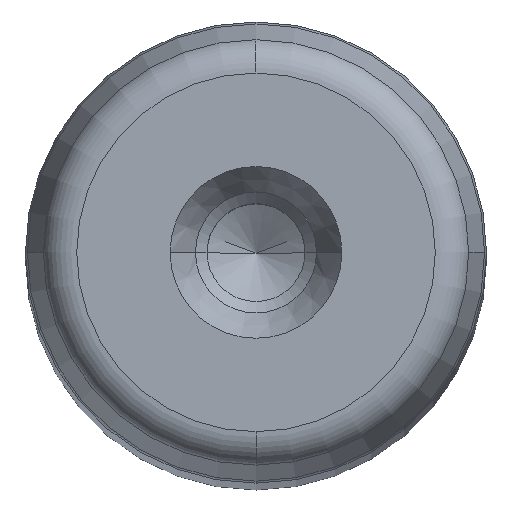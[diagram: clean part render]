
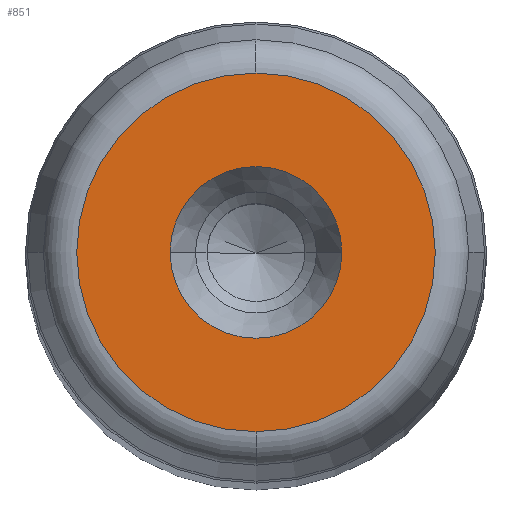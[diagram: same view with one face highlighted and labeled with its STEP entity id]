
A CAD part, top view. The second image highlights one B-rep face of the part: STEP entity #851.
In plain terms, the highlighted planar face has unit normal (0, 0, 1) as drawn and (0, 1, 0) by its records, which use the part's own axes.
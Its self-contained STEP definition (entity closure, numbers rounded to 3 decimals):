
#281=CARTESIAN_POINT('',(7.45,355.0,0.0));
#282=VERTEX_POINT('',#281);
#289=CARTESIAN_POINT('',(-7.45,355.0,0.));
#290=VERTEX_POINT('',#289);
#291=CARTESIAN_POINT('',(0.0,355.0,0.0));
#292=DIRECTION('',(0.0,1.0,0.0));
#293=DIRECTION('',(1.0,0.0,0.0));
#294=AXIS2_PLACEMENT_3D('',#291,#292,#293);
#295=CIRCLE('',#294,7.45);
#296=EDGE_CURVE('',#282,#290,#295,.T.);
#313=CARTESIAN_POINT('',(0.0,355.,15.554));
#314=VERTEX_POINT('',#313);
#324=CARTESIAN_POINT('',(0.,355.,-15.554));
#325=VERTEX_POINT('',#324);
#326=CARTESIAN_POINT('',(0.0,355.,0.0));
#327=DIRECTION('',(0.0,1.0,0.0));
#328=DIRECTION('',(1.0,0.0,0.0));
#329=AXIS2_PLACEMENT_3D('',#326,#327,#328);
#330=CIRCLE('',#329,15.554);
#331=EDGE_CURVE('',#325,#314,#330,.T.);
#812=CARTESIAN_POINT('',(15.554,355.,0.0));
#813=VERTEX_POINT('',#812);
#814=CARTESIAN_POINT('',(0.0,355.,0.0));
#815=DIRECTION('',(0.0,1.0,0.0));
#816=DIRECTION('',(1.0,0.0,0.0));
#817=AXIS2_PLACEMENT_3D('',#814,#815,#816);
#818=CIRCLE('',#817,15.554);
#819=EDGE_CURVE('',#813,#325,#818,.T.);
#821=CARTESIAN_POINT('',(0.0,355.,0.0));
#822=DIRECTION('',(0.0,1.0,0.0));
#823=DIRECTION('',(1.0,0.0,0.0));
#824=AXIS2_PLACEMENT_3D('',#821,#822,#823);
#825=CIRCLE('',#824,15.554);
#826=EDGE_CURVE('',#314,#813,#825,.T.);
#831=CARTESIAN_POINT('',(-17.11,355.0,-17.11));
#832=DIRECTION('',(0.0,1.0,0.0));
#833=DIRECTION('',(0.0,0.0,1.0));
#834=AXIS2_PLACEMENT_3D('',#831,#832,#833);
#835=PLANE('',#834);
#836=ORIENTED_EDGE('',*,*,#819,.T.);
#837=ORIENTED_EDGE('',*,*,#331,.T.);
#838=ORIENTED_EDGE('',*,*,#826,.T.);
#839=EDGE_LOOP('',(#836,#837,#838));
#840=FACE_OUTER_BOUND('',#839,.T.);
#841=ORIENTED_EDGE('',*,*,#296,.F.);
#842=CARTESIAN_POINT('',(0.0,355.0,0.0));
#843=DIRECTION('',(0.0,1.0,0.0));
#844=DIRECTION('',(1.0,0.0,0.0));
#845=AXIS2_PLACEMENT_3D('',#842,#843,#844);
#846=CIRCLE('',#845,7.45);
#847=EDGE_CURVE('',#290,#282,#846,.T.);
#848=ORIENTED_EDGE('',*,*,#847,.F.);
#849=EDGE_LOOP('',(#841,#848));
#850=FACE_BOUND('',#849,.T.);
#851=ADVANCED_FACE('',(#840,#850),#835,.T.);
